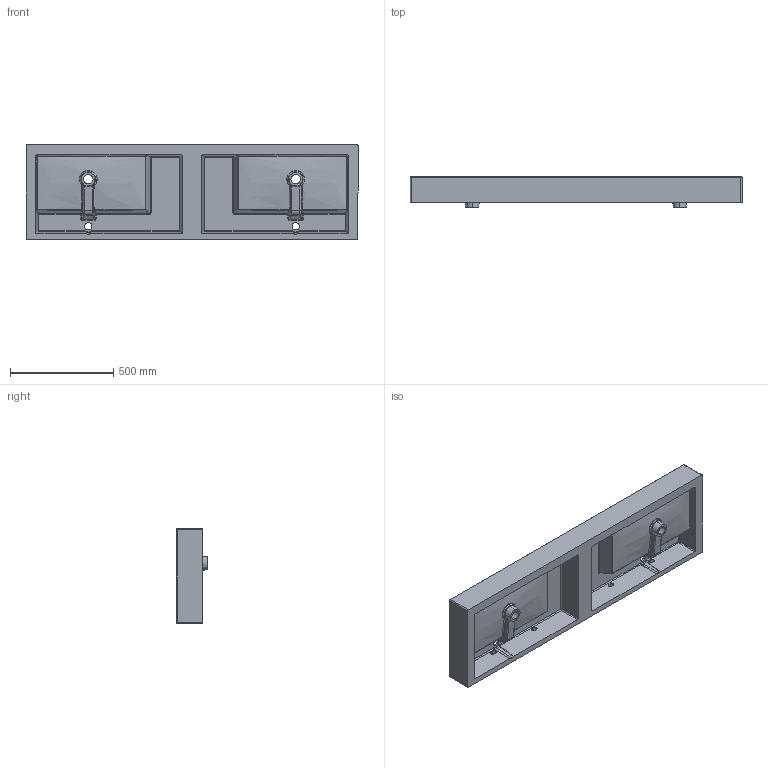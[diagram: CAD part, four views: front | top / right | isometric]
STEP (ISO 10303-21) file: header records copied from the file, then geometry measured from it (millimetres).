
FILE_DESCRIPTION (( 'STEP AP203' ), '1' );
FILE_NAME ('TWENTY160DV.STEP', '2019-04-11T14:35:14', ( '' ), ( '' ), 'SwSTEP 2.0', 'SolidWorks 2017', '' );
FILE_SCHEMA (( 'CONFIG_CONTROL_DESIGN' ));
Length unit declared in the file: millimetre
Products named in the file (1): TWENTY160DV
Bounding box: 1610 x 150 x 460 mm (x, y, z)
Volume: 27561101.4 mm3; surface area: 2631494.1 mm2
Topology: 1 solids, 1 shells, 320 faces, 765 edges, 434 vertices
Faces by surface type: cylinder 107, bspline 104, plane 55, sphere 38, cone 8, torus 8
Entity records: 21294 total; most frequent: CARTESIAN_POINT 14754, ORIENTED_EDGE 1486, DIRECTION 1195, EDGE_CURVE 743, AXIS2_PLACEMENT_3D 479, VERTEX_POINT 430, EDGE_LOOP 341, ADVANCED_FACE 320
